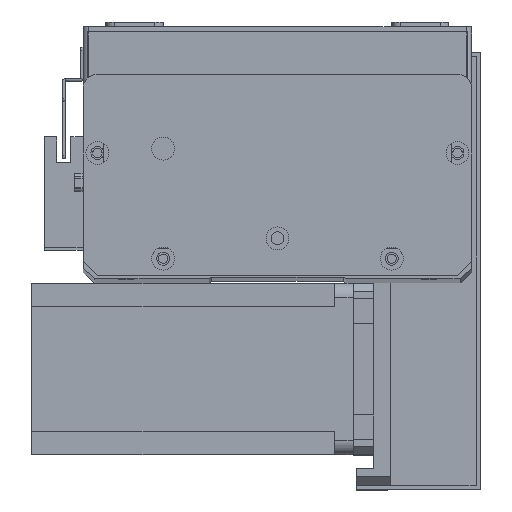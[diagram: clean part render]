
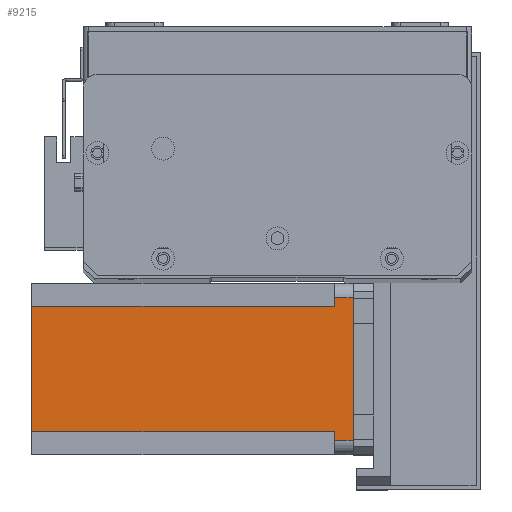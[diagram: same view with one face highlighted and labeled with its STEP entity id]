
A CAD part, top view. The second image highlights one B-rep face of the part: STEP entity #9215.
In plain terms, the highlighted planar face has unit normal (0, 0, 1) as drawn and (0, -1, 0) by its records, which use the part's own axes.
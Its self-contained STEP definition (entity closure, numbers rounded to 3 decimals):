
#1686 = ORIENTED_EDGE ( 'NONE', *, *, #14883, .F. ) ;
#1723 = LINE ( 'NONE', #25188, #24916 ) ;
#2538 = EDGE_CURVE ( 'NONE', #17606, #16186, #1723, .T. ) ;
#2676 = VERTEX_POINT ( 'NONE', #23012 ) ;
#3315 = DIRECTION ( 'NONE',  ( 0., 0., -1. ) ) ;
#3375 = CARTESIAN_POINT ( 'NONE',  ( 5., 0., -112.5 ) ) ;
#4273 = ORIENTED_EDGE ( 'NONE', *, *, #12750, .F. ) ;
#4416 = LINE ( 'NONE', #8538, #15747 ) ;
#4471 = CARTESIAN_POINT ( 'NONE',  ( 5., 0., 0. ) ) ;
#4737 = LINE ( 'NONE', #3375, #27858 ) ;
#5024 = EDGE_CURVE ( 'NONE', #8034, #2676, #4737, .T. ) ;
#5625 = EDGE_CURVE ( 'NONE', #21933, #2676, #10840, .T. ) ;
#6748 = CARTESIAN_POINT ( 'NONE',  ( 8., 0., -112.5 ) ) ;
#8034 = VERTEX_POINT ( 'NONE', #4471 ) ;
#8164 = CARTESIAN_POINT ( 'NONE',  ( 55., 0., -6.5 ) ) ;
#8473 = LINE ( 'NONE', #24046, #19634 ) ;
#8493 = DIRECTION ( 'NONE',  ( 0., 0., 1. ) ) ;
#8538 = CARTESIAN_POINT ( 'NONE',  ( 8., 0., -112.5 ) ) ;
#8741 = VECTOR ( 'NONE', #27838, 1000. ) ;
#9215 = ADVANCED_FACE ( 'NONE', ( #12139 ), #13060, .T. ) ;
#9398 = AXIS2_PLACEMENT_3D ( 'NONE', #13793, #11743, #11635 ) ;
#10551 = EDGE_LOOP ( 'NONE', ( #21753, #15716, #1686, #19061, #28667, #4273, #24473, #13188 ) ) ;
#10840 = LINE ( 'NONE', #27465, #8741 ) ;
#11245 = VERTEX_POINT ( 'NONE', #6748 ) ;
#11520 = VECTOR ( 'NONE', #18294, 1000. ) ;
#11635 = DIRECTION ( 'NONE',  ( 0., 0., -1. ) ) ;
#11743 = DIRECTION ( 'NONE',  ( 0., -1., 0. ) ) ;
#11783 = DIRECTION ( 'NONE',  ( 0., 0., 1. ) ) ;
#12139 = FACE_OUTER_BOUND ( 'NONE', #10551, .T. ) ;
#12750 = EDGE_CURVE ( 'NONE', #11245, #21933, #4416, .T. ) ;
#13060 = PLANE ( 'NONE',  #9398 ) ;
#13188 = ORIENTED_EDGE ( 'NONE', *, *, #15128, .F. ) ;
#13650 = EDGE_CURVE ( 'NONE', #11245, #22722, #8473, .T. ) ;
#13793 = CARTESIAN_POINT ( 'NONE',  ( 0., 0., -112.5 ) ) ;
#14446 = VERTEX_POINT ( 'NONE', #25203 ) ;
#14883 = EDGE_CURVE ( 'NONE', #8034, #16186, #28845, .T. ) ;
#15128 = EDGE_CURVE ( 'NONE', #14446, #22722, #17467, .T. ) ;
#15590 = CARTESIAN_POINT ( 'NONE',  ( 52., 0., -112.5 ) ) ;
#15713 = VECTOR ( 'NONE', #28036, 1000. ) ;
#15716 = ORIENTED_EDGE ( 'NONE', *, *, #2538, .T. ) ;
#15747 = VECTOR ( 'NONE', #8493, 1000. ) ;
#16022 = CARTESIAN_POINT ( 'NONE',  ( 55., 0., 0. ) ) ;
#16186 = VERTEX_POINT ( 'NONE', #16022 ) ;
#16428 = LINE ( 'NONE', #25862, #15713 ) ;
#17467 = LINE ( 'NONE', #18448, #11520 ) ;
#17606 = VERTEX_POINT ( 'NONE', #8164 ) ;
#18294 = DIRECTION ( 'NONE',  ( 0., 0., -1. ) ) ;
#18448 = CARTESIAN_POINT ( 'NONE',  ( 52., 0., -112.5 ) ) ;
#19061 = ORIENTED_EDGE ( 'NONE', *, *, #5024, .T. ) ;
#19634 = VECTOR ( 'NONE', #25193, 1000. ) ;
#21753 = ORIENTED_EDGE ( 'NONE', *, *, #21985, .T. ) ;
#21933 = VERTEX_POINT ( 'NONE', #25563 ) ;
#21985 = EDGE_CURVE ( 'NONE', #14446, #17606, #16428, .T. ) ;
#22722 = VERTEX_POINT ( 'NONE', #15590 ) ;
#23012 = CARTESIAN_POINT ( 'NONE',  ( 5., 0., -6.5 ) ) ;
#23039 = VECTOR ( 'NONE', #25943, 1000. ) ;
#24046 = CARTESIAN_POINT ( 'NONE',  ( 0., 0., -112.5 ) ) ;
#24473 = ORIENTED_EDGE ( 'NONE', *, *, #13650, .T. ) ;
#24916 = VECTOR ( 'NONE', #11783, 1000. ) ;
#25188 = CARTESIAN_POINT ( 'NONE',  ( 55., 0., -112.5 ) ) ;
#25193 = DIRECTION ( 'NONE',  ( 1., 0., 0. ) ) ;
#25203 = CARTESIAN_POINT ( 'NONE',  ( 52., 0., -6.5 ) ) ;
#25563 = CARTESIAN_POINT ( 'NONE',  ( 8., 0., -6.5 ) ) ;
#25862 = CARTESIAN_POINT ( 'NONE',  ( 52., 0., -6.5 ) ) ;
#25943 = DIRECTION ( 'NONE',  ( 1., 0., 0. ) ) ;
#25977 = CARTESIAN_POINT ( 'NONE',  ( 0., 0., 0. ) ) ;
#27465 = CARTESIAN_POINT ( 'NONE',  ( 8., 0., -6.5 ) ) ;
#27838 = DIRECTION ( 'NONE',  ( -1., 0., 0. ) ) ;
#27858 = VECTOR ( 'NONE', #3315, 1000. ) ;
#28036 = DIRECTION ( 'NONE',  ( 1., 0., 0. ) ) ;
#28667 = ORIENTED_EDGE ( 'NONE', *, *, #5625, .F. ) ;
#28845 = LINE ( 'NONE', #25977, #23039 ) ;
